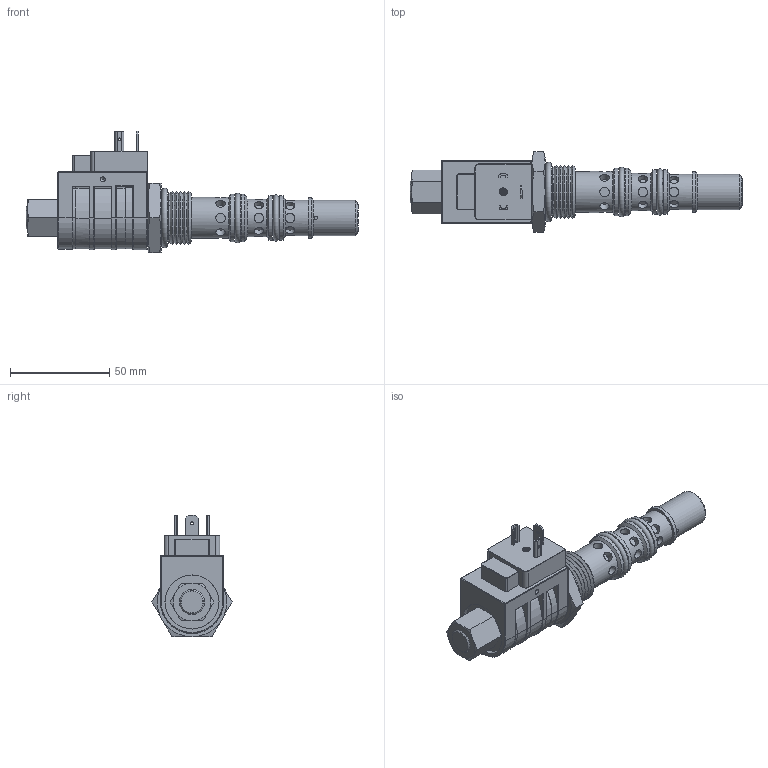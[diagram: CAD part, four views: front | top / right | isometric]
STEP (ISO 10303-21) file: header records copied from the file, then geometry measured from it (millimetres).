
FILE_DESCRIPTION( ( 'Unknown' ), '1' );
FILE_NAME( 'G:/Graphic Design/Graphic Design 2/Data Sheets/PROPORTIONAL CONTROLS/2_STEP/ESPRZ00.stp', 'Unknown', ( 'Unknown' ), ( 'Unknown' ), 'PSStep 17.0.49', 'Unknown', ' ' );
FILE_SCHEMA( ( 'AUTOMOTIVE_DESIGN { 1 0 10303 214 1 1 1 1 }' ) );
Length unit declared in the file: millimetre
Products named in the file (15): 36202017; d-phc12_0; PHC_Body_0; PHC_Disc_0; PHC_HirschThread_0; PT-EL-HC-TerminalConnectors_1; Assem1; Part10; Part12; Part14; Part16
Assembly tree (15 placements, depth 3):
  Assem1
    Part10
    Part12
    Part14
    Part16
    d-phc12_0
      PHC_Body_0
      PHC_Disc_0  x2
      PHC_HirschThread_0
      PT-EL-HC-TerminalConnectors_1
      PT-EL-HC-TerminalConnectors_1
      PT-EL-HC-TerminalConnectors_1
      PT-EL-HC-TerminalConnectors_1
    36202017
      36202017
Bounding box: 166.93 x 40.33 x 61.06 mm (x, y, z)
Volume: 101013.9 mm3; surface area: 33666.3 mm2
Topology: 13 solids, 13 shells, 378 faces, 856 edges, 523 vertices
Faces by surface type: cylinder 134, plane 133, cone 87, torus 15, sphere 6, bspline 3
Full cylindrical faces by diameter (mm): 0.5 x2, 1 x1, 1.5 x3, 1.588 x2, 4 x2, 4.775 x24, 10.668 x1, 10.998 x1, 12.675 x1, 13 x1, 13.05 x2, 17.78 x2, 18.059 x1, 18.796 x1, 19.66 x1, 20.549 x1, 20.625 x1, 22.149 x2, 23.724 x2, 23.99 x1, 25.4 x1, 27.18 x4
Entity records: 14059 total; most frequent: CARTESIAN_POINT 3172, DIRECTION 1704, ORIENTED_EDGE 1352, AXIS2_PLACEMENT_3D 727, EDGE_CURVE 676, EDGE_LOOP 538, VERTEX_POINT 481, FACE_OUTER_BOUND 429
